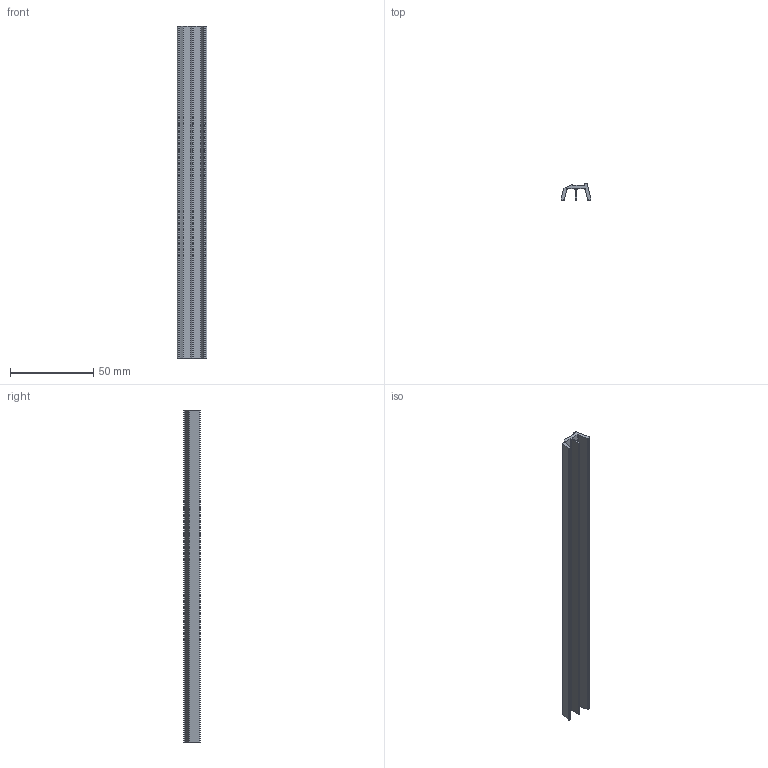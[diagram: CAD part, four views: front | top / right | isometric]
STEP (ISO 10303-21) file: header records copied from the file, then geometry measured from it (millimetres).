
FILE_DESCRIPTION (( 'STEP AP214' ), '1' );
FILE_NAME ('JEC4 11.step', '2017-04-05T08:05:13', ( '' ), ( '' ), 'SwSTEP 2.0', 'SolidWorks 2015', '' );
FILE_SCHEMA (( 'AUTOMOTIVE_DESIGN' ));
Length unit declared in the file: millimetre
Products named in the file (1): JEC4 11
Bounding box: 17.76 x 10 x 200 mm (x, y, z)
Volume: 12462.7 mm3; surface area: 15001.1 mm2
Topology: 1 solids, 1 shells, 35 faces, 99 edges, 66 vertices
Faces by surface type: plane 18, cylinder 17
Entity records: 1181 total; most frequent: DIRECTION 205, CARTESIAN_POINT 201, ORIENTED_EDGE 198, EDGE_CURVE 99, AXIS2_PLACEMENT_3D 70, VERTEX_POINT 66, LINE 65, VECTOR 65
